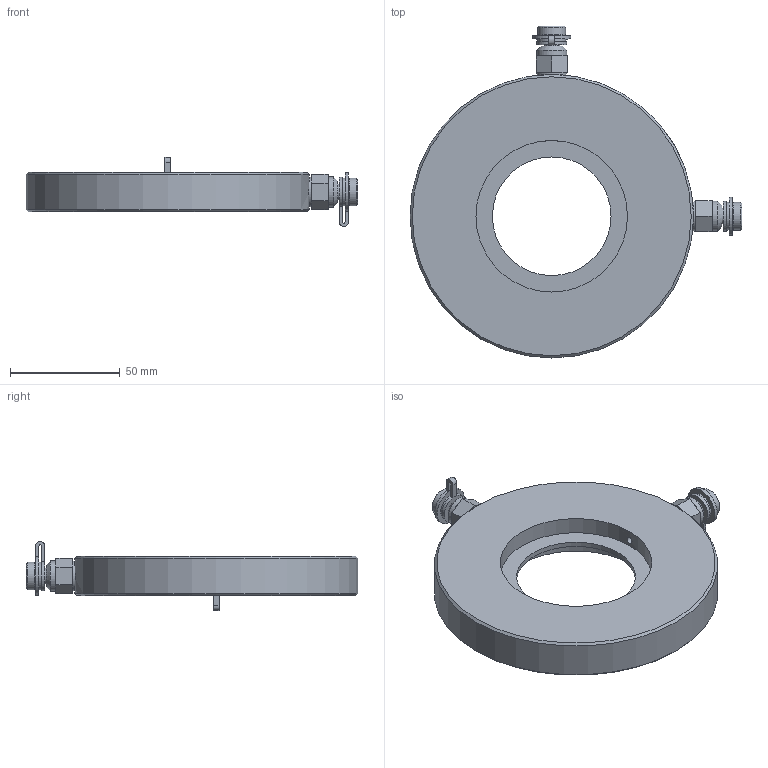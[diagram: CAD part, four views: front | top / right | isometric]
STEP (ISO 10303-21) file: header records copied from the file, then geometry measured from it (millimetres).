
FILE_DESCRIPTION((''),'2;1');
FILE_NAME('P:\Fastrack\53972_CRANE 3D\Workspace\DM900_DN65\DM900_DN65.stp','2010-12-23T09:31:11',('btaylor'),(''),'Autodesk Inventor 2008','Autodesk Inventor 2008','');
FILE_SCHEMA(('AUTOMOTIVE_DESIGN { 1 0 10303 214 1 1 1 1 }'));
Length unit declared in the file: millimetre
Products named in the file (1): DM900_DN65
Bounding box: 151.1 x 151.1 x 31.45 mm (x, y, z)
Volume: 177311.8 mm3; surface area: 35734.3 mm2
Topology: 1 solids, 1 shells, 103 faces, 231 edges, 149 vertices
Faces by surface type: plane 48, cylinder 29, bspline 18, cone 8
Full cylindrical faces by diameter (mm): 3.2 x2, 7.4 x2, 11 x2, 12.7 x2, 13.7 x2, 54 x1, 69 x2, 129 x1
Entity records: 7553 total; most frequent: CARTESIAN_POINT 5322, ORIENTED_EDGE 392, DIRECTION 390, EDGE_CURVE 196, EDGE_LOOP 152, AXIS2_PLACEMENT_3D 150, VERTEX_POINT 138, STYLED_ITEM 104
